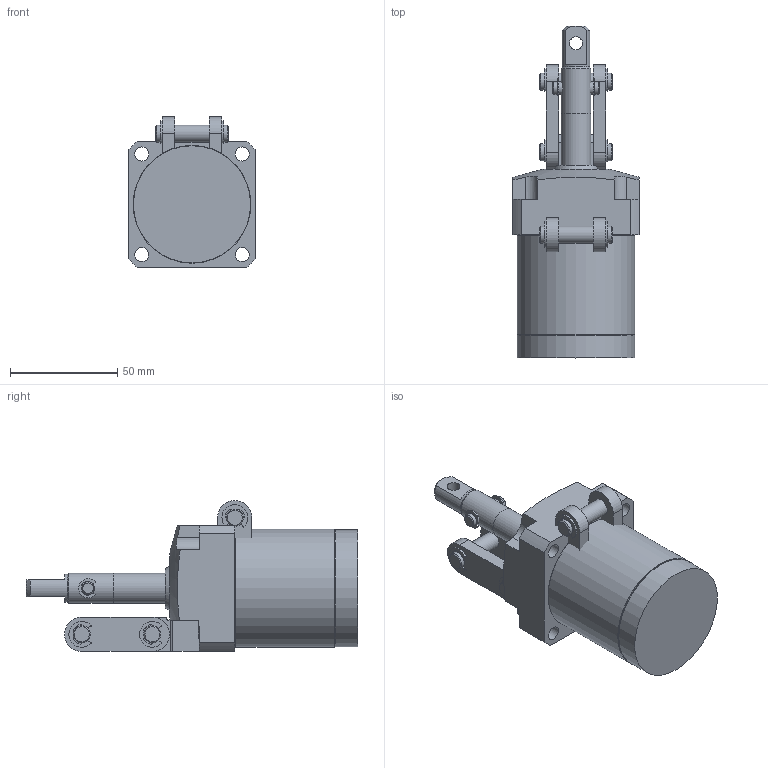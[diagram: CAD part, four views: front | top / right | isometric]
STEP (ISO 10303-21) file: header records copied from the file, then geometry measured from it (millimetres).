
FILE_DESCRIPTION( ( '' ), '1' );
FILE_NAME( 'W:/Catalogue/JL5H/JL5H34-25KR/JL5H34-25KR.stp', '2008-05-26T01:35:54', ( '機械事業部産業機器グループ' ), ( '豊和工業株式会社' ), 'XStep 1.0', ' ', ' ' );
FILE_SCHEMA( ( 'CONFIG_CONTROL_DESIGN' ) );
Length unit declared in the file: millimetre
Products named in the file (5): Assem1; 1; 2; 3; 4
Bounding box: 59 x 155 x 70.5 mm (x, y, z)
Volume: 448507.8 mm3; surface area: 95514 mm2
Topology: 8 solids, 10 shells, 520 faces, 1366 edges, 894 vertices
Faces by surface type: plane 264, cylinder 214, cone 40, torus 2
Full cylindrical faces by diameter (mm): 2 x2, 4 x4, 6 x16, 6.6 x8, 8 x14, 8.3 x4, 13 x2, 14 x4, 16 x2, 20 x2, 24 x4, 34 x4, 54 x4, 54.7 x2, 55 x2
Entity records: 7990 total; most frequent: CARTESIAN_POINT 1440, DIRECTION 1392, ORIENTED_EDGE 1210, EDGE_CURVE 605, AXIS2_PLACEMENT_3D 545, VERTEX_POINT 427, EDGE_LOOP 353, LINE 302
